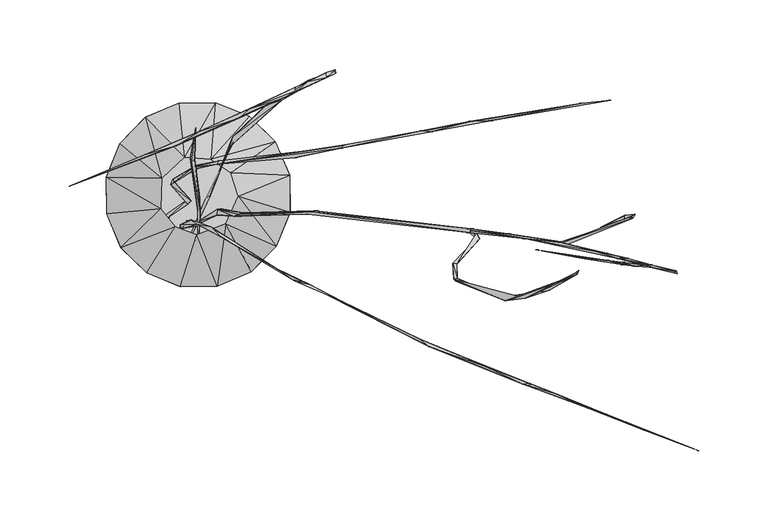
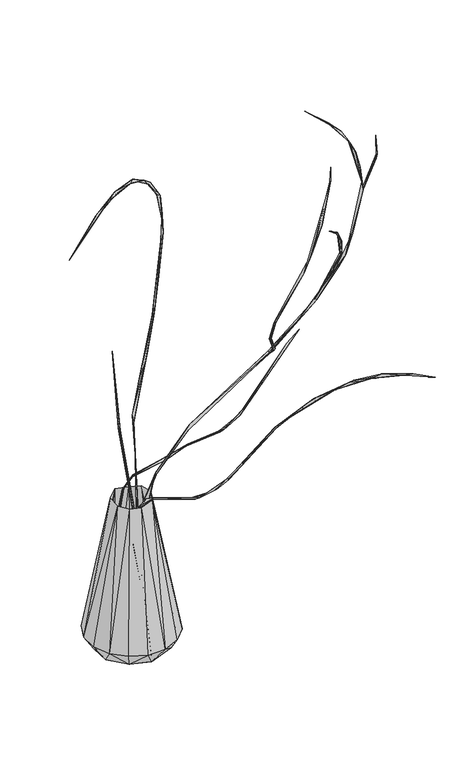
"""IFC4 building model written with IfcOpenShell, lengths in millimetres: geographic element geometry, Enscape AssetDefinition - Vase 002 Eucalyptus : Enscape AssetDefinition - Vase 002 Eucalyptus."""

from ifc_helpers import new_model, si_unit, origin, place, context, project, spatial, triangles, source, transform, mapped, element, save


def geographic_element_56111ee9(model_context):
    return source(origin(), model_context, "Body", "Tessellation", [
        triangles([(36.7593251, 56.4155154, 22.7762283), (65.8845686, 13.8990278, 22.7762124), (23.5828061, 15.7574718, 234.8041998), (55.5504701, 38.0539704, 22.7762124), (9.177575, 25.4603123, 232.3666124), (1.9669315, 54.026576, -0.217579), (12.3719011, 66.18832, 22.7762283), (-13.8989359, 65.8845686, 22.7762124), (-10.0914784, 27.0048333, 234.7921366), (-38.0539, 55.5505064, 22.7762283), (-26.2310706, 11.9595875, 234.7921366), (-52.2079234, 10.3848619, -0.164486), (-36.811702, 39.593409, -0.217579), (-56.4154972, 36.7593796, 22.7762351), (-50.6667656, -18.8578662, -0.217593), (-27.0048742, -10.0915352, 234.7921366), (-66.18832, 12.3719579, 22.7762079), (-65.8845822, -13.8989858, 22.7762079), (-55.5505064, -38.0539363, 22.7762192), (-29.5734356, -44.2597348, -0.164493), (39.6150919, 36.8319292, -0.1751032), (-12.7138065, -66.1136789, 22.3878845), (-37.0845869, -56.229403, 23.2767769), (-16.3837372, -22.9584006, 234.7724248), (13.8990131, -65.8845822, 22.7762124), (-2.1e-05, -53.736977, -0.2091384), (38.5030368, -38.5030368, -0.2300019), (-1.1193616, -28.8277076, 234.7952796), (38.0539636, -55.5504792, 22.7761988), (53.736977, -7e-06, -0.2091314), (56.2294257, -37.084546, 23.2767769), (66.1136743, -12.7137793, 22.3878845), (19.8406585, -20.9701362, 234.8009296), (28.8276644, -1.1193756, 234.7952796), (57.4041723, -53.8640087, 245.119831), (79.0733439, -64.0075938, 252.7576097), (69.0806807, -62.1194414, 246.9815452), (89.775643, -70.6921013, 258.4523203), (103.1714369, -76.7089351, 275.1852924), (63.3357825, -58.1536497, 243.7800872), (1.8252128, -22.1120406, 231.8592124), (15.4554293, -28.699034, 242.7658323), (-0.7395433, -21.1604044, 232.9863965), (16.3263063, -30.2933612, 245.7965884), (9.1363655, -23.2053446, 242.5266027), (-5.2879579, -18.1960516, 216.6122869), (-3.9951935, -35.8250003, 126.7784716), (-12.0057375, -24.5771472, 195.3322087), (-12.7795751, -21.8362375, 199.7364638), (-12.4203186, -26.369625, 177.933089), (-12.3821407, -31.7917663, 162.7369054), (-5.4410775, -32.6200883, 119.9626358), (-2.3591518, -32.9631088, 108.5741685), (-4.798349, -34.309025, 98.9741277), (-33.457946, -21.341934, 54.3983102), (-7.52855, -34.0758815, 101.4823412), (-30.8574166, -22.9635715, 53.9341716), (-33.3004883, -24.5582098, 54.4675829), (-34.5050432, -19.526329, 26.6455257), (-33.5532685, -22.1104464, 37.0456085), (-36.6175369, -22.5481082, 34.5404221), (-21.7474802, -26.4829379, 2.4035384), (-21.5348206, -26.5326079, 5.6268266), (161.5132519, -105.3986992, 353.5537828), (159.9340423, -104.1287368, 355.0869741), (104.5465982, -77.8887141, 273.1988402), (166.3621747, -109.3152298, 363.1272174), (193.9547855, -118.1489293, 383.4469073), (238.2764806, -135.7983607, 410.9689556), (207.3388886, -123.9435792, 396.6665946), (233.9017113, -136.5426739, 409.6773557), (258.4591513, -143.7562689, 420.654847), (280.5782045, -153.8729115, 422.4745397), (332.1129404, -173.6556248, 423.6160398), (293.7031119, -157.9581273, 427.3899373), (359.9718504, -184.4456094, 414.6894044), (321.1027476, -169.6503824, 423.007138), (-5.6283242, 26.2840084, 331.9032512), (-1.7299237, 48.0066037, 443.0141653), (-5.0638562, 23.6761916, 331.4072059), (1.3568664, -13.5732688, 191.3344876), (-2.581441, 25.1773377, 328.9487803), (-0.6925113, -53.1165434, 8.3655799), (-0.417626, -11.5421371, 192.4482641), (1.0613205, -2.3163541, 219.6573227), (98.8881954, 87.188519, 577.2471419), (91.9924136, 86.6164245, 509.5953484), (98.5726896, 89.9296852, 604.6630194), (95.2079967, 88.1023803, 563.6822722), (80.3520994, 79.5274677, 456.2931876), (66.5063193, 73.6507415, 400.2455913), (79.0859249, 82.4075789, 453.0166071), (25.3316751, 37.7312339, 326.7306381), (24.9205719, 41.5695738, 333.1069204), (48.7424191, 64.2887948, 370.5136488), (59.9702085, 67.804069, 390.2007465), (22.8133422, 34.305773, 326.2340115), (8.7988338, -0.6680224, 220.1901572), (15.1721537, 16.6713763, 285.0641225), (14.8464571, 16.0368981, 288.5878173), (5.3080864, -2.7065169, 212.4414478), (-14.38695, -50.080873, 16.7838536), (91.8497715, 87.7098807, 633.8126209), (96.4624896, 87.3002127, 599.9774769), (87.1060385, 83.6469928, 644.6655195), (92.3141236, 83.9303512, 641.0706808), (78.505646, 81.3023048, 664.0635361), (39.3232447, 62.4375588, 696.3380922), (36.7051065, 61.5792173, 700.3609571), (71.6497736, 75.1035825, 675.5013554), (59.0774623, 68.4081382, 686.7611332), (29.3018543, 54.9960481, 699.6744438), (-15.591606, 35.262621, 697.9915524), (-38.4126036, 28.5426164, 687.5839754), (-40.8160951, 27.6086459, 682.600922), (0.3321635, 45.3261714, 702.5365511), (1.0207764, 44.5613107, 699.0487553), (-92.5742549, 5.9107822, 648.1233027), (185.3582535, -62.2511875, 490.2142276), (202.580549, -31.8639571, 423.7123275), (184.0276843, -60.7491172, 491.0978946), (183.0846278, -49.4199395, 457.3542057), (183.5118001, -52.8727992, 461.2436849), (200.2228804, -31.7960243, 421.0450484), (200.5975123, -27.7412618, 420.297783), (186.0476918, -49.5940613, 457.2575546), (186.4690324, -60.2295904, 490.6945762), (235.4522525, -74.5801316, 595.3105016), (252.6190826, -68.9628055, 630.3487335), (218.085689, -73.8674253, 560.2787736), (272.7938323, -55.8930137, 685.2712532), (271.6645044, -56.4414222, 685.7909163), (220.8787416, -76.5841154, 567.651434), (272.7352057, -57.251529, 687.3953968), (273.938112, -54.662511, 706.9968893), (197.0204414, -25.8637306, 418.0951921), (194.7751933, -26.6431071, 415.1651748), (223.0959937, -28.2966376, 440.114415), (196.0071311, -24.4305945, 418.2129539), (197.1075909, -26.2145041, 414.7364945), (83.9905038, -11.7845823, 329.1669356), (195.6352425, -27.3069474, 416.8157281), (78.6988482, -14.2820089, 323.8499637), (28.7561912, -14.2018232, 272.9731454), (81.2839648, -12.1660248, 331.1114027), (25.7294865, -15.3936927, 266.642518), (32.0085545, -12.8706579, 271.6048968), (16.6919385, -10.248533, 231.2864276), (13.7129859, -10.5374303, 234.0606769), (-0.8943919, -19.8917455, 24.2960256), (13.2182668, -14.6666636, 208.8865412), (-1.5988012, -21.8820242, 13.689526), (-8.4460455, -18.7384172, 8.3032836), (2.53471, -19.1238282, 21.7473258), (196.3170505, -25.9064333, 417.7065894), (235.7628077, -31.7943325, 456.5971298), (261.9542504, -34.7418497, 487.0474877), (302.4170786, -46.0234535, 550.0514545), (261.3245287, -34.0659394, 485.1844474), (307.6314769, -18.3734163, 523.0634943), (310.5094989, -15.9305377, 532.4198636), (312.8323949, -17.1463712, 532.7370681), (263.3417021, -36.954276, 485.5162949), (293.8045047, -42.2324649, 531.2336715), (286.6283984, -41.1635394, 523.3392042), (325.6937828, -51.2824848, 653.2565649), (312.1611786, -48.022205, 583.04875), (325.5444823, -50.6759629, 654.8765968), (308.8747513, -45.8812792, 573.4132553), (343.9974257, -54.7981041, 697.6815422), (342.6950706, -56.2877298, 736.3935688), (344.7511951, -56.977972, 706.04702), (325.3418784, -52.396066, 652.5667814), (343.5541752, -55.6992301, 705.8224697), (321.3922285, -50.9459955, 688.7894251), (323.762142, -51.3891098, 664.0720385), (304.7609944, -48.7391444, 735.9430876), (314.5212816, -51.5282183, 716.1430607), (275.7267928, -45.7818939, 774.059293), (305.6713494, -50.4457444, 734.039352), (294.0493844, -47.3536457, 755.0464273), (243.016253, -39.6271234, 800.195125), (275.0171159, -45.3048972, 772.4927462), (311.8575634, -15.5775375, 551.5606284), (306.3213098, -17.9113897, 567.4725932), (314.6354098, -14.0411885, 548.4306959), (289.7989716, -23.4488276, 578.7120598), (307.0608722, -15.0230224, 566.4128105), (304.6524436, -17.1804897, 565.8246197), (-16.776917, 8.9709629, 188.4654767), (-18.462386, 11.0549359, 189.5197728), (-1.4624994, 18.7537597, 236.9931105), (-5.1387085, -4.4492413, 115.9633432), (-19.6404822, 7.0940636, 186.091857), (-7.4763531, -3.2311967, 108.5319291), (-7.4725033, -6.9080284, 102.9056646), (-23.8411093, -14.7078731, 53.4997777), (-21.7307026, -16.7355053, 55.1460117), (-20.8382062, -15.9045513, 53.3993387), (-10.5691473, -6.9571806, 79.9786302), (-23.779794, -32.1384998, 37.610847), (-24.0222801, -34.8703666, 39.5183546), (-25.6676534, -31.4868544, 38.9350326), (-40.2864581, -24.7055823, 16.7841488), (-1.4768398, 21.0109927, 234.2304521), (15.6319753, 24.4041926, 250.5812891), (15.1478944, 23.2510744, 248.1101827), (69.7231197, 26.4956892, 255.2872519), (-3.3640269, 19.7071887, 236.8240801), (13.2954639, 21.9930457, 250.2470253), (105.8627152, 35.7094891, 261.959083), (163.0163578, 45.1737098, 255.8511709), (103.1834365, 34.4452971, 259.7839251), (102.6602217, 33.2229108, 262.1128527), (160.8188539, 45.970736, 257.9937909), (167.8104329, 45.0627563, 257.762664), (195.8796317, 52.6577006, 268.7778165), (276.0261386, 65.7888259, 347.728448), (210.3718248, 53.2111825, 281.3679637), (196.9131442, 51.918111, 267.0332827), (296.8238517, 67.7841302, 362.3140766)], [[221, 218, 219], [221, 220, 218], [220, 221, 219], [217, 218, 220], [217, 219, 218], [215, 217, 212], [220, 212, 217], [219, 217, 216], [219, 216, 220], [212, 220, 216], [215, 216, 217], [215, 211, 214], [214, 216, 215], [213, 216, 214], [215, 213, 211], [212, 213, 215], [212, 216, 213], [214, 208, 213], [210, 211, 213], [214, 210, 208], [214, 211, 210], [213, 206, 210], [206, 213, 208], [209, 210, 206], [209, 192, 210], [208, 207, 206], [207, 210, 192], [210, 207, 208], [205, 206, 207], [205, 209, 206], [207, 192, 205], [204, 202, 203], [204, 203, 201], [201, 202, 204], [199, 202, 201], [202, 199, 198], [197, 203, 202], [201, 203, 197], [197, 202, 198], [199, 201, 197], [200, 199, 197], [196, 199, 200], [198, 199, 196], [195, 197, 198], [195, 198, 196], [195, 200, 197], [196, 200, 193], [195, 193, 200], [190, 193, 195], [192, 190, 205], [191, 190, 195], [205, 190, 191], [191, 209, 205], [209, 191, 194], [194, 193, 190], [193, 194, 196], [192, 209, 194], [194, 195, 196], [191, 195, 194], [194, 190, 192], [188, 189, 187], [187, 189, 185], [187, 185, 188], [188, 185, 186], [184, 186, 185], [188, 184, 189], [185, 189, 184], [182, 183, 179], [181, 183, 182], [182, 179, 181], [179, 180, 181], [183, 180, 179], [180, 178, 181], [183, 177, 180], [177, 183, 181], [181, 178, 177], [173, 175, 178], [178, 175, 177], [176, 173, 178], [175, 176, 177], [180, 176, 178], [177, 176, 180], [176, 158, 173], [175, 173, 168], [158, 176, 168], [176, 175, 168], [172, 171, 174], [174, 173, 172], [174, 168, 173], [171, 170, 174], [173, 170, 172], [172, 170, 171], [174, 170, 168], [170, 166, 168], [166, 170, 173], [168, 169, 158], [169, 165, 158], [166, 169, 168], [173, 158, 167], [166, 167, 169], [167, 166, 173], [165, 169, 164], [167, 164, 169], [167, 158, 164], [163, 164, 158], [164, 163, 157], [165, 164, 157], [186, 184, 162], [163, 162, 157], [186, 161, 188], [161, 162, 184], [162, 161, 157], [161, 184, 188], [186, 160, 161], [162, 160, 186], [163, 160, 162], [161, 160, 157], [157, 160, 159], [160, 163, 159], [156, 158, 165], [157, 159, 156], [158, 156, 163], [165, 157, 156], [138, 163, 156], [159, 163, 138], [155, 138, 156], [156, 142, 155], [152, 153, 154], [153, 150, 154], [150, 153, 152], [151, 152, 154], [152, 151, 150], [150, 151, 149], [154, 148, 151], [150, 149, 148], [150, 148, 154], [148, 149, 147], [149, 144, 147], [151, 148, 146], [144, 149, 146], [149, 151, 146], [148, 147, 146], [146, 147, 143], [144, 145, 147], [142, 145, 143], [145, 144, 146], [145, 146, 143], [156, 139, 142], [159, 139, 156], [159, 138, 139], [142, 139, 145], [145, 141, 147], [145, 139, 141], [141, 142, 143], [147, 141, 143], [138, 140, 139], [139, 140, 141], [138, 155, 140], [137, 142, 140], [142, 141, 140], [125, 120, 140], [137, 124, 136], [136, 124, 125], [124, 137, 140], [124, 140, 120], [134, 135, 132], [132, 135, 131], [135, 134, 131], [131, 134, 129], [133, 129, 134], [133, 134, 128], [134, 132, 128], [129, 128, 131], [128, 121, 133], [131, 128, 132], [121, 128, 130], [133, 130, 129], [128, 129, 130], [127, 122, 121], [133, 127, 130], [130, 127, 121], [127, 126, 122], [124, 122, 126], [126, 120, 125], [125, 124, 126], [124, 123, 122], [126, 123, 120], [121, 122, 123], [123, 124, 120], [119, 126, 127], [119, 123, 126], [133, 119, 127], [121, 123, 119], [119, 133, 121], [115, 118, 114], [118, 115, 113], [118, 113, 114], [113, 115, 117], [114, 116, 115], [115, 116, 117], [113, 116, 114], [112, 113, 117], [112, 116, 113], [117, 108, 112], [108, 117, 116], [116, 109, 108], [112, 109, 116], [112, 108, 111], [110, 109, 111], [112, 111, 109], [108, 109, 107], [107, 111, 108], [109, 110, 107], [111, 107, 105], [106, 107, 110], [106, 110, 111], [106, 111, 105], [106, 105, 104], [105, 107, 103], [106, 103, 107], [104, 105, 103], [103, 88, 104], [106, 88, 103], [102, 98, 101], [100, 101, 98], [98, 102, 99], [99, 102, 101], [99, 101, 100], [98, 97, 100], [97, 98, 99], [97, 94, 100], [93, 100, 94], [93, 97, 99], [93, 99, 100], [96, 97, 93], [94, 97, 96], [94, 95, 93], [95, 94, 96], [93, 95, 91], [96, 93, 91], [92, 91, 95], [91, 90, 96], [90, 95, 96], [92, 95, 90], [87, 90, 91], [87, 91, 92], [104, 88, 89], [88, 87, 89], [87, 92, 89], [92, 90, 89], [106, 86, 88], [104, 89, 86], [86, 106, 104], [89, 90, 86], [90, 87, 86], [86, 87, 88], [85, 83, 84], [83, 81, 84], [83, 85, 81], [82, 85, 84], [82, 81, 85], [82, 84, 78], [80, 78, 84], [81, 80, 84], [82, 80, 81], [79, 78, 80], [79, 82, 78], [79, 80, 82], [76, 74, 77], [75, 74, 76], [76, 77, 75], [73, 74, 75], [73, 77, 74], [77, 73, 72], [77, 72, 75], [69, 72, 73], [70, 72, 69], [71, 75, 72], [71, 73, 75], [73, 71, 69], [72, 70, 71], [69, 68, 70], [71, 68, 69], [65, 70, 68], [67, 68, 71], [70, 65, 67], [71, 70, 67], [64, 65, 68], [67, 64, 68], [64, 67, 66], [64, 39, 65], [64, 66, 39], [65, 39, 67], [38, 66, 67], [38, 67, 39], [63, 62, 59], [63, 59, 60], [61, 62, 63], [61, 63, 60], [59, 62, 61], [61, 60, 58], [57, 58, 60], [60, 55, 57], [59, 55, 60], [55, 59, 61], [61, 58, 55], [56, 55, 58], [57, 54, 58], [58, 54, 56], [55, 53, 57], [53, 55, 56], [57, 53, 54], [53, 56, 52], [50, 53, 52], [56, 54, 47], [50, 47, 53], [56, 47, 52], [53, 47, 54], [50, 52, 51], [51, 52, 47], [49, 50, 51], [50, 49, 46], [51, 48, 49], [48, 47, 50], [48, 50, 46], [51, 47, 48], [44, 45, 43], [48, 43, 49], [46, 43, 45], [49, 43, 46], [46, 45, 41], [48, 46, 41], [43, 48, 41], [43, 41, 44], [41, 45, 42], [41, 42, 44], [40, 44, 42], [40, 42, 45], [36, 66, 38], [38, 40, 36], [66, 36, 39], [40, 37, 44], [37, 38, 39], [40, 38, 37], [39, 36, 37], [35, 36, 40], [45, 35, 40], [44, 35, 45], [35, 37, 36], [35, 44, 37], [3, 34, 2], [34, 33, 31], [33, 29, 31], [34, 32, 2], [34, 31, 32], [32, 30, 2], [2, 30, 21], [32, 31, 27], [30, 27, 21], [29, 27, 31], [32, 27, 30], [33, 28, 25], [33, 25, 29], [25, 27, 29], [25, 26, 27], [27, 26, 21], [28, 22, 25], [22, 26, 25], [28, 24, 23], [28, 23, 22], [22, 23, 20], [26, 20, 21], [22, 20, 26], [24, 19, 23], [19, 20, 23], [24, 16, 19], [16, 18, 19], [19, 15, 20], [20, 15, 21], [18, 15, 19], [15, 12, 21], [17, 12, 15], [16, 17, 18], [17, 15, 18], [16, 11, 17], [11, 14, 17], [14, 12, 17], [14, 13, 12], [12, 13, 21], [11, 10, 14], [10, 13, 14], [11, 9, 10], [9, 8, 10], [8, 13, 10], [8, 6, 13], [13, 6, 21], [7, 6, 8], [9, 7, 8], [5, 7, 9], [5, 1, 7], [1, 21, 6], [1, 6, 7], [5, 3, 4], [5, 4, 1], [3, 2, 4], [2, 21, 4], [4, 21, 1]], closed=False),
    ])


if __name__ == "__main__":
    model = new_model("IFC4")
    model_context = context("Model", 3, world=origin())
    ifc_project = project(units=[si_unit("LENGTHUNIT", "METRE", prefix="MILLI")], contexts=[model_context])
    site = spatial("IfcSite", under=ifc_project)
    building = spatial("IfcBuilding", under=site)
    placement = place(None, origin())
    geographic_element_shape = geographic_element_56111ee9(model_context)
    element("IfcGeographicElement", 1, ObjectType="Enscape AssetDefinition - Vase 002 Eucalyptus : Enscape AssetDefinition - Vase 002 Eucalyptus", at=placement, inside=building, context=model_context, shape_type="MappedRepresentation", body=[
        mapped(geographic_element_shape, transform((0.0, 0.0, 0.0), x_axis=(1.0, 0.0, 0.0), y_axis=(0.0, 1.0, 0.0), z_axis=(0.0, 0.0, 1.0))),
    ])
    save(model, "model.ifc")
